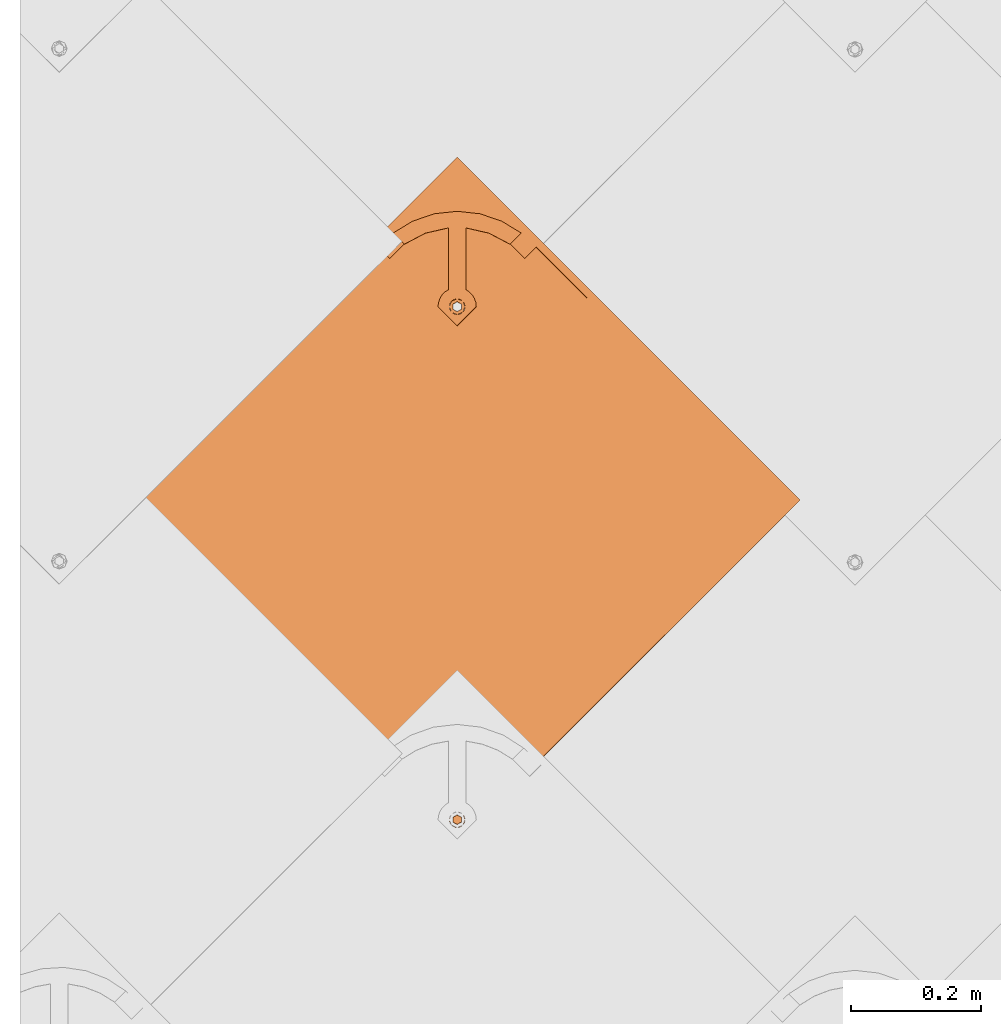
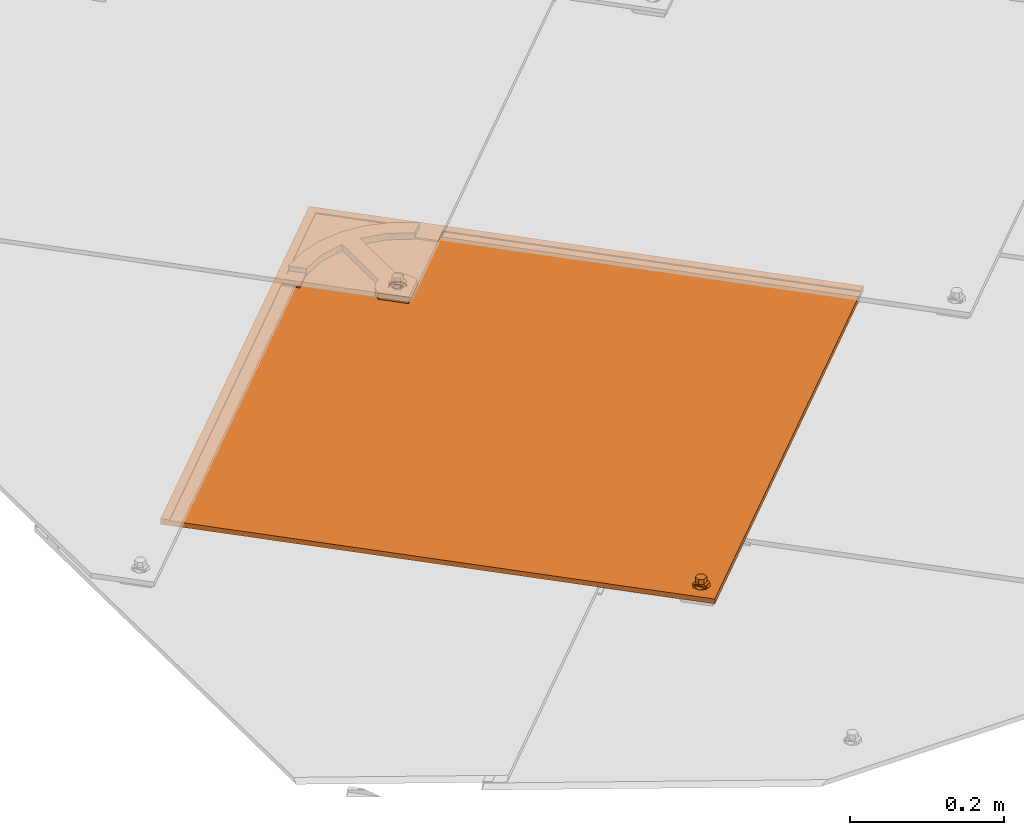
# One storey, part 75 of 151: 1 proxy.
"""IFC2X3 building model written with IfcOpenShell, lengths in millimetres."""

from ifc_helpers import new_model, entity, si_unit, converted_unit, derived_unit, direction, frame, origin, place, context, subcontext, project, spatial, faceted_brep, source, transform, mapped, material, material_list, type_object, type_shapes, element, save


model = new_model("IFC2X3")

# Units and contexts
model_context = context("Model", 3, precision=0.01, world=origin(), true_north=direction((6.12303176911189e-17, 1.0)))
body_context = subcontext(model_context, "Body", "Model", "MODEL_VIEW")
ifc_project = project(units=[si_unit("LENGTHUNIT", "METRE", prefix="MILLI"), si_unit("AREAUNIT", "SQUARE_METRE"), si_unit("VOLUMEUNIT", "CUBIC_METRE"), converted_unit("PLANEANGLEUNIT", "DEGREE", entity("IfcRatioMeasure", 0.0174532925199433), si_unit("PLANEANGLEUNIT", "RADIAN"), dimensions=[0, 0, 0, 0, 0, 0, 0]), si_unit("MASSUNIT", "GRAM", prefix="KILO"), derived_unit("MASSDENSITYUNIT", [(si_unit("MASSUNIT", "GRAM", prefix="KILO"), 1), (si_unit("LENGTHUNIT", "METRE"), -3)]), si_unit("TIMEUNIT", "SECOND"), si_unit("FREQUENCYUNIT", "HERTZ"), si_unit("THERMODYNAMICTEMPERATUREUNIT", "DEGREE_CELSIUS"), derived_unit("THERMALTRANSMITTANCEUNIT", [(si_unit("MASSUNIT", "GRAM", prefix="KILO"), 1), (si_unit("THERMODYNAMICTEMPERATUREUNIT", "KELVIN"), -1), (si_unit("TIMEUNIT", "SECOND"), -3)]), derived_unit("VOLUMETRICFLOWRATEUNIT", [(si_unit("LENGTHUNIT", "METRE"), 3), (si_unit("TIMEUNIT", "SECOND"), -1)]), si_unit("ELECTRICCURRENTUNIT", "AMPERE"), si_unit("ELECTRICVOLTAGEUNIT", "VOLT"), si_unit("POWERUNIT", "WATT"), si_unit("FORCEUNIT", "NEWTON", prefix="KILO"), si_unit("ILLUMINANCEUNIT", "LUX"), si_unit("LUMINOUSFLUXUNIT", "LUMEN"), si_unit("LUMINOUSINTENSITYUNIT", "CANDELA"), derived_unit("USERDEFINED", [(si_unit("MASSUNIT", "GRAM", prefix="KILO"), -1), (si_unit("LENGTHUNIT", "METRE"), -2), (si_unit("TIMEUNIT", "SECOND"), 3), (si_unit("LUMINOUSFLUXUNIT", "LUMEN"), 1)]), derived_unit("LINEARVELOCITYUNIT", [(si_unit("LENGTHUNIT", "METRE"), 1), (si_unit("TIMEUNIT", "SECOND"), -1)]), si_unit("PRESSUREUNIT", "PASCAL"), derived_unit("USERDEFINED", [(si_unit("LENGTHUNIT", "METRE"), -2), (si_unit("MASSUNIT", "GRAM", prefix="KILO"), 1), (si_unit("TIMEUNIT", "SECOND"), -2)])], contexts=[model_context])

# Site, building, storey
site_placement = place(None, origin())
site = spatial("IfcSite", under=ifc_project, at=site_placement, Name="Default", CompositionType="ELEMENT")
building_placement = place(site_placement, origin())
building = spatial("IfcBuilding", under=site, at=building_placement, CompositionType="ELEMENT")
storey_placement = place(building_placement, origin())
storey = spatial("IfcBuildingStorey", under=building, at=storey_placement, Name="Level 1", CompositionType="ELEMENT", Elevation=0.0)

# Proxy
ifc_material_1 = material(Name="Rubber - Sunstyle - Black")
ifc_material_2 = material(Name="Glass - Sunstyle - Tainted Black")
ifc_material_list_1 = material_list([ifc_material_1, ifc_material_2])
ifc_material_list_2 = material_list([ifc_material_1, ifc_material_2])
building_element_proxy_type = type_object("IfcBuildingElementProxyType", Name="Non PV Shingle - Black", PredefinedType="NOTDEFINED", material=ifc_material_list_2)
shared_shape = source(origin(), body_context, "Body", "Brep", [
    faceted_brep([(0.0, -485.159313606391, 4.00636906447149), (-5.77420283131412, -488.492583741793, 4.062193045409), (-5.77420283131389, -488.124274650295, 26.0540623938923), (0.0, -484.791004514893, 25.9982384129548), (-5.77420283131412, -495.159124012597, 4.17384100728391), (-5.7742028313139, -494.790814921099, 26.1657103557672), (0.0, -498.492394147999, 4.2296649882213), (0.0, -498.1240850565, 26.2215343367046), (5.77420283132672, -495.159124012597, 4.17384100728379), (5.77420283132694, -494.790814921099, 26.1657103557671), (5.77420283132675, -488.492583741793, 4.06219304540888), (5.77420283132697, -488.124274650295, 26.0540623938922), (-8.60370416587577, -500.060042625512, 26.2539568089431), (0.0, -503.623313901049, 26.3136327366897), (-12.1674751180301, -491.457544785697, 26.1098863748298), (-8.60370416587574, -482.855046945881, 25.9658159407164), (0.0, -479.291775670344, 25.9061400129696), (8.60370416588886, -482.855046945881, 25.9658159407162), (12.1674751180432, -491.457544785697, 26.1098863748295), (8.60370416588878, -500.060042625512, 26.2539568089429), (-11.3242446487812, -489.162467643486, 28.4227283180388), (-9.75647455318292, -491.386529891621, 30.3502110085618), (0.0, -484.073454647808, 30.9829114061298), (0.0, -482.832957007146, 30.4025647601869), (0.0, -480.675406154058, 29.3931896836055), (0.0, -503.067269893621, 27.5886907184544), (0.0, -502.123693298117, 29.7523951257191), (0.0, -498.67431759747, 31.227439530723), (0.0, -479.804811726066, 27.19910242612), (-6.32324569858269, -495.024101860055, 31.1663074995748), (-6.32324569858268, -487.723670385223, 31.0440434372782), (11.3242446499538, -493.673887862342, 28.4982833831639), (9.84888015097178, -492.460936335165, 30.2713428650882), (6.32324569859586, -487.723670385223, 31.0440434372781), (6.32324569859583, -495.024101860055, 31.1663074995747), (-6.32324569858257, -494.890073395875, 39.1691956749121), (0.0, -498.54028913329, 39.2303277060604), (0.0, -491.239857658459, 39.1080636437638), (-6.32324569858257, -487.589641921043, 39.0469316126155), (6.32324569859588, -494.890073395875, 39.169195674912), (6.32324569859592, -487.589641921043, 39.0469316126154), (0.0, -483.939426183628, 38.9857995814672), (0.0, -491.825853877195, 4.11801702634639)], [[[0, 1, 2, 3]], [[1, 4, 5, 2]], [[4, 6, 7, 5]], [[6, 8, 9, 7]], [[8, 10, 11, 9]], [[10, 0, 3, 11]], [[12, 7, 13]], [[7, 12, 5]], [[14, 5, 12]], [[5, 14, 2]], [[15, 2, 14]], [[3, 2, 15]], [[15, 16, 3]], [[16, 17, 3]], [[11, 3, 17]], [[11, 17, 18]], [[9, 11, 18]], [[18, 19, 9]], [[7, 9, 19]], [[19, 13, 7]], [[20, 14, 12]], [[21, 22, 23, 24]], [[24, 20, 21]], [[25, 20, 12]], [[26, 27, 21]], [[15, 14, 20]], [[12, 13, 25]], [[20, 28, 15]], [[28, 20, 24]], [[21, 27, 29]], [[21, 29, 30]], [[26, 21, 20]], [[20, 25, 26]], [[15, 28, 16]], [[21, 30, 22]], [[31, 18, 17]], [[28, 31, 17]], [[32, 27, 26]], [[26, 31, 32]], [[26, 25, 31]], [[25, 19, 31]], [[17, 16, 28]], [[31, 19, 18]], [[24, 31, 28]], [[33, 34, 32]], [[23, 22, 33]], [[24, 32, 31]], [[27, 32, 34]], [[32, 23, 33]], [[19, 25, 13]], [[32, 24, 23]], [[35, 36, 37]], [[37, 38, 35]], [[36, 39, 37]], [[40, 37, 39]], [[37, 40, 41]], [[37, 41, 38]], [[42, 6, 4]], [[4, 1, 42]], [[1, 0, 42]], [[42, 8, 6]], [[0, 10, 42]], [[8, 42, 10]], [[22, 30, 38, 41]], [[30, 29, 35, 38]], [[29, 27, 36, 35]], [[27, 34, 39, 36]], [[34, 33, 40, 39]], [[33, 22, 41, 40]]]),
    faceted_brep([(0.0, 284.789208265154, 20.3195200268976), (0.0, 289.288576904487, 20.2441667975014), (-8.60370416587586, 288.352479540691, 20.259844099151), (8.60370416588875, 288.352479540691, 20.2598440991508), (6.64022859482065, 293.121777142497, 20.1799702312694), (12.1674751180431, 296.954977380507, 20.1157736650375), (6.64022859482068, 300.788177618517, 20.0515770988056), (8.60370416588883, 305.557475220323, 19.9717032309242), (0.0, 304.621377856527, 19.9873805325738), (0.0, 309.12074649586, 19.9120273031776), (-8.60370416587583, 305.557475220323, 19.9717032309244), (-6.64022859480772, 300.788177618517, 20.0515770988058), (-12.1674751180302, 296.954977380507, 20.1157736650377), (-6.64022859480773, 293.121777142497, 20.1799702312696), (-6.6402282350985, 300.520254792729, 4.05382046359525), (0.0, 304.35345482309, 3.9896239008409), (-6.64022823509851, 292.853854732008, 4.18221358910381), (0.0, 289.020654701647, 4.24641015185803), (6.64022823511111, 292.853854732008, 4.18221358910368), (6.64022823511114, 300.520254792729, 4.05382046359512), (-8.60370416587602, 288.084556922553, 4.26208746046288), (0.0, 284.521285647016, 4.32176338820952), (-12.1674751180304, 296.687054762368, 4.11801702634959), (-8.603704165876, 305.289552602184, 3.97394659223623), (0.0, 308.852823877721, 3.91427066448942), (8.60370416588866, 305.289552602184, 3.97394659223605), (12.167475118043, 296.687054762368, 4.11801702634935), (8.60370416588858, 288.084556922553, 4.26208746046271)], [[[0, 1, 2]], [[1, 0, 3]], [[3, 4, 1]], [[4, 3, 5]], [[6, 4, 5]], [[5, 7, 6]], [[7, 8, 6]], [[8, 7, 9]], [[8, 9, 10]], [[10, 11, 8]], [[12, 11, 10]], [[2, 13, 12]], [[12, 13, 11]], [[13, 2, 1]], [[8, 11, 14, 15]], [[11, 13, 16, 14]], [[13, 1, 17, 16]], [[1, 4, 18, 17]], [[4, 6, 19, 18]], [[6, 8, 15, 19]], [[20, 17, 21]], [[17, 20, 16]], [[22, 16, 20]], [[14, 16, 22]], [[23, 14, 22]], [[15, 14, 23]], [[23, 24, 15]], [[24, 25, 15]], [[19, 15, 25]], [[19, 25, 26]], [[26, 18, 19]], [[26, 27, 18]], [[17, 18, 27]], [[27, 21, 17]], [[24, 23, 10, 9]], [[10, 23, 22, 12]], [[20, 21, 0, 2]], [[20, 2, 12, 22]], [[21, 27, 3, 0]], [[3, 27, 26, 5]], [[25, 24, 9, 7]], [[25, 7, 5, 26]]]),
    faceted_brep([(518.347125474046, -8.50591218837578, 16.4460771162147), (526.831811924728, -0.0212257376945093, 16.3039797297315), (526.831811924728, 0.00389200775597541, 17.8037694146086), (518.347125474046, -8.48079444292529, 17.9458668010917), (0.000322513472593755, 509.695546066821, 7.76749207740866), (-518.346480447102, -8.50591218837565, 16.4460771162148), (-526.831166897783, -0.021225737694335, 16.3039797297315), (0.000322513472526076, 526.662539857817, 7.48333714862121), (0.000322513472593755, 526.687657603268, 8.98312683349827), (-526.831166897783, 0.00389200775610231, 17.8037694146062), (-518.346480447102, -8.48079444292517, 17.9458668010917), (0.000322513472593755, 509.720663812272, 9.26728176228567)], [[[0, 1, 2, 3]], [[1, 0, 4, 5, 6, 7]], [[2, 1, 7, 8]], [[3, 2, 8, 9, 10, 11]], [[0, 3, 11, 4]], [[5, 10, 9, 6]], [[8, 7, 6, 9]], [[4, 11, 10, 5]]]),
    faceted_brep([(0.000322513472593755, 526.662539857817, 7.48333714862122), (-3.10582854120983, 308.054627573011, 11.1444757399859), (0.0, 308.46346032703, 11.1376288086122), (-6.0, 306.855990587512, 11.1645499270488), (3.10582854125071, 308.054627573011, 11.1444757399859), (6.0, 306.855990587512, 11.1645499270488), (8.4852813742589, 304.949234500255, 11.1964833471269), (10.3923048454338, 302.464301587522, 11.2380997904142), (-8.48528137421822, 304.949234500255, 11.1964833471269), (-10.3923048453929, 302.464301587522, 11.2380997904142), (-11.5911099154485, 299.570535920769, 11.2865631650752), (-526.831166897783, -0.0212257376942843, 16.3039797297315), (11.5911099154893, 299.570535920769, 11.2865631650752), (526.831811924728, -0.021225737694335, 16.3039797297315), (-12.0, 296.465142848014, 11.3385707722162), (-11.5911099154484, 293.359749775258, 11.3905783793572), (-10.392304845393, 290.465984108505, 11.4390417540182), (-8.48528137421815, 287.981051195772, 11.4806581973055), (-6.0, 286.074295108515, 11.5125916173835), (-3.10582854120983, 284.875658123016, 11.5326658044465), (-2.07055236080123, -483.623303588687, 24.4031112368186), (-4.0, -484.422394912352, 24.4164940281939), (-5.65685424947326, -485.693565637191, 24.4377829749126), (-6.92820323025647, -487.350187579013, 24.4655272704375), (-7.72740661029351, -489.279364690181, 24.4978361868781), (-8.0, -491.349626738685, 24.5325079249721), (-7.72740661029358, -493.419888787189, 24.5671796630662), (0.000322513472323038, -526.704991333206, 25.1246223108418), (-6.92820323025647, -495.349065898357, 24.5994885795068), (-5.65685424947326, -497.005687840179, 24.6272328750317), (-4.0, -498.276858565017, 24.6485218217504), (-2.0705523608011, -499.075949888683, 24.6619046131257), (0.0, -499.348505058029, 24.6664692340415), (2.07055236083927, -499.075949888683, 24.6619046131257), (4.0, -498.276858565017, 24.6485218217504), (5.65685424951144, -497.005687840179, 24.6272328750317), (6.92820323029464, -495.349065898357, 24.5994885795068), (7.72740661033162, -493.419888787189, 24.5671796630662), (12.0, 296.465142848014, 11.3385707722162), (11.5911099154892, 293.359749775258, 11.3905783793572), (10.3923048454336, 290.465984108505, 11.4390417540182), (8.4852813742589, 287.981051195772, 11.4806581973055), (6.0, 286.074295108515, 11.5125916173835), (3.10582854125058, 284.875658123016, 11.5326658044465), (2.07055236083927, -483.623303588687, 24.4031112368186), (4.0, -484.422394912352, 24.4164940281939), (5.65685424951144, -485.69356563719, 24.4377829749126), (8.0, -491.349626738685, 24.5325079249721), (7.72740661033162, -489.279364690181, 24.4978361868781), (6.92820323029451, -487.350187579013, 24.4655272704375), (0.0, 284.466825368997, 11.5395127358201), (0.0, -483.350748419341, 24.3985466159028), (-526.831166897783, -0.146814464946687, 8.80503130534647), (-6.92820323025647, -487.475776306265, 16.9665788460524), (-7.72740661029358, -489.404953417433, 16.9988877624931), (-5.65685424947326, -485.819154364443, 16.9388345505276), (-8.0, -491.475215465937, 17.0335595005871), (-7.72740661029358, -493.545477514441, 17.0682312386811), (0.000322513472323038, -526.830580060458, 17.6256738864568), (-4.0, -484.547983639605, 16.9175456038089), (-2.07055236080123, -483.748892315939, 16.9041628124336), (-3.10582854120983, 284.750069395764, 4.03371738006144), (-6.0, 285.948706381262, 4.01364319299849), (-8.48528137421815, 287.85546246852, 3.98170977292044), (-10.392304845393, 290.340395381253, 3.94009332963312), (-11.5911099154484, 293.234161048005, 3.89162995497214), (-12.0, 296.339554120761, 3.83962234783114), (-11.5911099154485, 299.444947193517, 3.78761474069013), (0.000322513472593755, 526.536951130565, -0.0156112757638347), (-10.3923048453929, 302.338712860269, 3.73915136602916), (-8.48528137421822, 304.823645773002, 3.69753492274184), (-6.0, 306.73040186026, 3.66560150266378), (-3.10582854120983, 307.929038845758, 3.64552731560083), (0.0, 308.337871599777, 3.63868038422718), (3.10582854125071, 307.929038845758, 3.64552731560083), (6.0, 306.73040186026, 3.66560150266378), (8.4852813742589, 304.823645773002, 3.69753492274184), (10.3923048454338, 302.338712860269, 3.73915136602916), (11.5911099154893, 299.444947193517, 3.78761474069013), (526.831811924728, -0.146814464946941, 8.80503130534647), (7.72740661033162, -493.545477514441, 17.0682312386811), (8.0, -491.475215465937, 17.0335595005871), (7.72740661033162, -489.404953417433, 16.9988877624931), (6.92820323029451, -487.475776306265, 16.9665788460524), (5.65685424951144, -485.819154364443, 16.9388345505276), (4.0, -484.547983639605, 16.9175456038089), (2.07055236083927, -483.748892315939, 16.9041628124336), (3.10582854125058, 284.750069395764, 4.03371738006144), (6.0, 285.948706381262, 4.01364319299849), (12.0, 296.339554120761, 3.83962234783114), (11.5911099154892, 293.234161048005, 3.89162995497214), (10.3923048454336, 290.340395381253, 3.94009332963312), (8.4852813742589, 287.85546246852, 3.98170977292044), (0.0, 284.341236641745, 4.04056431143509), (0.0, -483.476337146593, 16.8995981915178), (-6.92820323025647, -495.474654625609, 17.1005401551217), (-5.65685424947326, -497.131276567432, 17.1282844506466), (-4.0, -498.40244729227, 17.1495733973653), (-2.0705523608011, -499.201538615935, 17.1629561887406), (0.0, -499.474093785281, 17.1675208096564), (2.07055236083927, -499.201538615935, 17.1629561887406), (4.0, -498.40244729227, 17.1495733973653), (5.65685424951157, -497.131276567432, 17.1282844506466), (6.92820323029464, -495.474654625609, 17.1005401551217)], [[[0, 1, 2]], [[1, 0, 3]], [[0, 2, 4]], [[4, 5, 0]], [[5, 6, 0]], [[0, 6, 7]], [[8, 3, 0]], [[9, 8, 0]], [[9, 0, 10]], [[10, 0, 11]], [[12, 0, 7]], [[12, 13, 0]], [[11, 14, 10]], [[14, 11, 15]], [[16, 15, 11]], [[16, 11, 17]], [[18, 17, 11]], [[11, 19, 18]], [[19, 11, 20]], [[21, 20, 11]], [[11, 22, 21]], [[22, 11, 23]], [[23, 11, 24]], [[25, 24, 11]], [[25, 11, 26]], [[26, 11, 27]], [[27, 28, 26]], [[29, 28, 27]], [[30, 29, 27]], [[31, 30, 27]], [[27, 32, 31]], [[32, 27, 33]], [[34, 33, 27]], [[34, 27, 35]], [[36, 35, 27]], [[37, 36, 27]], [[37, 27, 13]], [[12, 38, 13]], [[39, 13, 38]], [[13, 39, 40]], [[13, 40, 41]], [[41, 42, 13]], [[42, 43, 13]], [[13, 43, 44]], [[45, 13, 44]], [[46, 13, 45]], [[47, 37, 13]], [[48, 47, 13]], [[49, 48, 13]], [[46, 49, 13]], [[20, 50, 19]], [[51, 50, 20]], [[44, 50, 51]], [[43, 50, 44]], [[52, 53, 54]], [[53, 52, 55]], [[52, 54, 56]], [[56, 57, 52]], [[52, 57, 58]], [[59, 55, 52]], [[60, 59, 52]], [[60, 52, 61]], [[61, 52, 62]], [[63, 62, 52]], [[64, 63, 52]], [[65, 64, 52]], [[66, 65, 52]], [[66, 52, 67]], [[52, 68, 67]], [[69, 67, 68]], [[70, 69, 68]], [[68, 71, 70]], [[71, 68, 72]], [[72, 68, 73]], [[74, 73, 68]], [[74, 68, 75]], [[76, 75, 68]], [[68, 77, 76]], [[77, 68, 78]], [[68, 79, 78]], [[58, 80, 79]], [[81, 79, 80]], [[81, 82, 79]], [[82, 83, 79]], [[84, 79, 83]], [[79, 84, 85]], [[85, 86, 79]], [[87, 79, 86]], [[87, 88, 79]], [[89, 78, 79]], [[79, 90, 89]], [[90, 79, 91]], [[92, 91, 79]], [[92, 79, 88]], [[93, 60, 61]], [[93, 86, 94]], [[94, 60, 93]], [[87, 86, 93]], [[58, 57, 95]], [[96, 58, 95]], [[96, 97, 58]], [[97, 98, 58]], [[99, 58, 98]], [[58, 99, 100]], [[58, 100, 101]], [[101, 102, 58]], [[102, 103, 58]], [[103, 80, 58]], [[11, 0, 68, 52]], [[27, 11, 52, 58]], [[13, 27, 58, 79]], [[0, 13, 79, 68]], [[25, 56, 54, 24]], [[24, 54, 53, 23]], [[21, 22, 55, 59]], [[55, 22, 23, 53]], [[20, 21, 59, 60]], [[20, 60, 94, 51]], [[51, 94, 86, 44]], [[44, 86, 85, 45]], [[49, 46, 84, 83]], [[84, 46, 45, 85]], [[48, 49, 83, 82]], [[48, 82, 81, 47]], [[47, 81, 80, 37]], [[37, 80, 103, 36]], [[34, 35, 102, 101]], [[102, 35, 36, 103]], [[33, 34, 101, 100]], [[33, 100, 99, 32]], [[32, 99, 98, 31]], [[31, 98, 97, 30]], [[28, 29, 96, 95]], [[96, 29, 30, 97]], [[26, 28, 95, 57]], [[26, 57, 56, 25]], [[14, 66, 67, 10]], [[10, 67, 69, 9]], [[3, 8, 70, 71]], [[70, 8, 9, 69]], [[1, 3, 71, 72]], [[1, 72, 73, 2]], [[2, 73, 74, 4]], [[4, 74, 75, 5]], [[7, 6, 76, 77]], [[76, 6, 5, 75]], [[12, 7, 77, 78]], [[12, 78, 89, 38]], [[38, 89, 90, 39]], [[39, 90, 91, 40]], [[42, 41, 92, 88]], [[40, 91, 92, 41]], [[87, 43, 42, 88]], [[43, 87, 93, 50]], [[50, 93, 61, 19]], [[19, 61, 62, 18]], [[16, 17, 63, 64]], [[63, 17, 18, 62]], [[15, 16, 64, 65]], [[15, 65, 66, 14]]]),
    faceted_brep([(-103.640919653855, 371.082989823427, 12.5892580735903), (-81.5635806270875, 393.15723338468, 12.2195694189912), (-98.1147183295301, 409.705441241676, 11.9424281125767), (-106.2656930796, 403.014562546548, 12.0544836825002), (-113.962762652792, 395.806279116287, 12.1752044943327), (-121.16572423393, 388.605337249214, 12.295802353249), (121.446435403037, 388.886009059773, 12.2911017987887), (110.715435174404, 399.614000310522, 12.1114346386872), (104.744439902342, 405.287275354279, 12.0164213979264), (98.4920378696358, 410.648923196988, 11.9266271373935), (98.074476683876, 410.231479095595, 11.933618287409), (98.234751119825, 410.108922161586, 11.9356708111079), (98.3948723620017, 409.986165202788, 11.9377266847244), (81.6917048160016, 393.285339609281, 12.2174239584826), (103.769043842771, 371.211096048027, 12.5871126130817), (-23.2046504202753, 315.000563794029, 21.029550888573), (-8.48528137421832, 305.451589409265, 21.1894724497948), (-18.7041061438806, 319.633569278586, 20.951959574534), (-10.392304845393, 302.966656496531, 21.2310888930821), (-26.5842195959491, 309.496413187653, 21.1217317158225), (-11.5911099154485, 300.072890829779, 21.2795522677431), (-28.6795527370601, 303.387013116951, 21.2240489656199), (-12.0, 296.967497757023, 21.3315598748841), (-29.3894280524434, 296.967497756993, 21.3315598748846), (-11.5911099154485, 293.862104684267, 21.3835674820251), (-10.392304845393, 290.968339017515, 21.4320308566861), (-8.48528137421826, 288.483406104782, 21.4736472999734), (0.0, 267.58219039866, 21.8236906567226), (-6.0, 286.576650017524, 21.5055807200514), (-3.10582854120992, 285.378013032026, 21.5256549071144), (0.0, 284.969180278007, 21.532501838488), (3.10582854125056, 285.378013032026, 21.5256549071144), (6.0, 286.576650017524, 21.5055807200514), (8.48528137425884, 288.483406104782, 21.4736472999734), (29.389428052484, 296.967497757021, 21.3315598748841), (10.3923048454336, 290.968339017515, 21.4320308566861), (11.5911099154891, 293.862104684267, 21.3835674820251), (12.0, 296.967497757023, 21.3315598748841), (28.6795527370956, 303.387013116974, 21.2240489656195), (11.5911099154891, 300.072890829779, 21.2795522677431), (26.5842195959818, 309.49641318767, 21.1217317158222), (10.3923048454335, 302.966656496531, 21.2310888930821), (23.2046504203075, 315.000563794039, 21.0295508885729), (8.48528137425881, 305.451589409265, 21.1894724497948), (18.7041061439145, 319.633569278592, 20.9519595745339), (6.0, 307.358345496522, 21.1575390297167), (13.3000000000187, 323.171617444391, 20.8927060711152), (3.10582854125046, 308.55698248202, 21.1374648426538), (0.0, 308.965815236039, 21.1306179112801), (-13.2999999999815, 323.171617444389, 20.8927060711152), (-13.2999999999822, 418.050603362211, 19.3037191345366), (13.3000000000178, 418.050603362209, 19.3037191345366), (0.0, 443.522216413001, 18.8771329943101), (34.9852699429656, 439.689674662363, 18.9413185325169), (48.8881158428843, 409.917561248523, 19.4399273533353), (68.3106161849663, 428.373889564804, 19.1308297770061), (81.1868897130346, 392.906184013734, 19.7248255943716), (98.3948723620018, 410.11175393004, 19.4366751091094), (-34.9852699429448, 439.689674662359, 18.941318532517), (-48.8881158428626, 409.917561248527, 19.4399273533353), (-68.3106161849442, 428.373889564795, 19.1308297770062), (-81.1868897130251, 392.906184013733, 19.7248255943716), (-98.3948723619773, 410.111753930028, 19.4366751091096), (-6.0, 307.358345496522, 21.1575390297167), (-3.10582854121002, 308.55698248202, 21.1374648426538), (0.0, 267.414738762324, 11.8250927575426), (0.0, 284.80172864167, 11.533903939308), (3.10582854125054, 285.210561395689, 11.5270570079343), (-3.10582854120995, 285.210561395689, 11.5270570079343), (6.0, 286.409198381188, 11.5069828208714), (8.48528137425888, 288.315954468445, 11.4750494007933), (29.389428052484, 296.800046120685, 11.332961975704), (-6.0, 286.409198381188, 11.5069828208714), (-8.48528137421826, 288.315954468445, 11.4750494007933), (-29.3894280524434, 296.800046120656, 11.3329619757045), (-10.392304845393, 290.800887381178, 11.433432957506), (-11.5911099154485, 293.694653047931, 11.384969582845), (-12.0, 296.800046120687, 11.332961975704), (-28.6795527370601, 303.219561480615, 11.2254510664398), (-11.5911099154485, 299.905439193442, 11.280954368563), (-26.5842195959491, 309.328961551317, 11.1231338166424), (-10.392304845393, 302.799204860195, 11.232490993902), (-23.2046504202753, 314.833112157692, 11.030952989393), (-8.48528137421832, 305.284137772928, 11.1908745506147), (-18.7041061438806, 319.466117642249, 10.9533616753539), (-6.0, 307.190893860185, 11.1589411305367), (-13.2999999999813, 323.004165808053, 10.8941081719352), (-3.10582854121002, 308.389530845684, 11.1388669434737), (0.0, 308.798363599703, 11.1320200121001), (13.3000000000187, 323.004165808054, 10.8941081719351), (13.3000000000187, 417.883151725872, 9.30512123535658), (-13.2999999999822, 417.883151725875, 9.30512123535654), (-0.199443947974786, 443.35464169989, 8.87853715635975), (-35.1150635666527, 439.493384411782, 8.94320360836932), (-48.8881158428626, 409.75010961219, 9.44132945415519), (-68.3708539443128, 428.178324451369, 9.13270270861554), (-81.5627248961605, 393.11622608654, 9.71990561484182), (-81.1868897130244, 392.738732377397, 9.72622769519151), (-98.1143736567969, 409.663842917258, 9.44277420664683), (-106.2656930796, 402.972699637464, 9.5548342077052), (-103.640919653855, 371.041126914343, 10.0896085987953), (-113.962762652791, 395.764416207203, 9.67555501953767), (-121.16572423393, 388.56347434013, 9.79615287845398), (-98.3948723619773, 409.944302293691, 9.43807720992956), (34.7256001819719, 439.579582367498, 8.94176000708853), (48.8881158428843, 409.750109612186, 9.44132945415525), (68.0092206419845, 428.346649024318, 9.12988369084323), (81.6917048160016, 393.243476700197, 9.71777448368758), (98.0744766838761, 410.189616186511, 9.43396881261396), (104.744439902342, 405.245412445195, 9.51677192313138), (98.4920378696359, 410.607060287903, 9.42697766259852), (110.715435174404, 399.572137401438, 9.61178516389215), (103.769043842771, 371.169233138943, 10.0874631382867), (121.446435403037, 388.844146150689, 9.7914523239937), (81.1868897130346, 392.738732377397, 9.7262276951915), (3.10582854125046, 308.389530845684, 11.1388669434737), (6.0, 307.190893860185, 11.1589411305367), (18.7041061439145, 319.466117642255, 10.9533616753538), (8.48528137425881, 305.284137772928, 11.1908745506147), (23.2046504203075, 314.833112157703, 11.0309529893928), (10.3923048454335, 302.799204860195, 11.232490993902), (26.5842195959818, 309.328961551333, 11.1231338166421), (11.5911099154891, 299.905439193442, 11.280954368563), (28.6795527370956, 303.219561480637, 11.2254510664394), (12.0, 296.800046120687, 11.332961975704), (10.3923048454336, 290.800887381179, 11.433432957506), (11.5911099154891, 293.694653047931, 11.384969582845)], [[[0, 1, 2, 3, 4, 5]], [[6, 7, 8, 9, 10, 11, 12, 13, 14]], [[15, 16, 17]], [[18, 16, 15]], [[19, 18, 15]], [[20, 18, 19]], [[19, 21, 20]], [[21, 22, 20]], [[22, 21, 23]], [[24, 22, 23]], [[25, 24, 23]], [[25, 23, 26]], [[23, 27, 26]], [[28, 26, 27]], [[28, 27, 29]], [[27, 30, 29]], [[30, 27, 31]], [[31, 27, 32]], [[33, 32, 27]], [[33, 27, 34]], [[34, 35, 33]], [[36, 35, 34]], [[37, 36, 34]], [[34, 38, 37]], [[39, 37, 38]], [[38, 40, 39]], [[40, 41, 39]], [[41, 40, 42]], [[43, 41, 42]], [[42, 44, 43]], [[45, 43, 44]], [[44, 46, 45]], [[45, 46, 47]], [[47, 46, 48]], [[46, 49, 48]], [[46, 50, 49]], [[46, 51, 50]], [[52, 50, 51]], [[51, 53, 52]], [[51, 54, 53]], [[53, 54, 55]], [[54, 56, 55]], [[56, 57, 55]], [[58, 50, 52]], [[50, 58, 59]], [[60, 59, 58]], [[60, 61, 59]], [[61, 60, 62]], [[63, 49, 17]], [[63, 64, 49]], [[49, 64, 48]], [[63, 17, 16]], [[65, 66, 67]], [[66, 65, 68]], [[65, 67, 69]], [[69, 70, 65]], [[65, 70, 71]], [[72, 68, 65]], [[72, 65, 73]], [[73, 65, 74]], [[74, 75, 73]], [[75, 74, 76]], [[76, 74, 77]], [[78, 77, 74]], [[79, 77, 78]], [[78, 80, 79]], [[79, 80, 81]], [[80, 82, 81]], [[83, 81, 82]], [[84, 83, 82]], [[84, 85, 83]], [[86, 85, 84]], [[86, 87, 85]], [[88, 87, 86]], [[89, 88, 86]], [[89, 86, 90]], [[91, 90, 86]], [[91, 92, 90]], [[92, 91, 93]], [[94, 93, 91]], [[93, 94, 95]], [[94, 96, 95]], [[94, 97, 96]], [[98, 95, 96]], [[99, 98, 96]], [[96, 100, 99]], [[99, 100, 101]], [[102, 101, 100]], [[95, 98, 103]], [[104, 90, 92]], [[90, 104, 105]], [[106, 105, 104]], [[107, 105, 106]], [[106, 108, 107]], [[108, 109, 107]], [[109, 108, 110]], [[111, 107, 109]], [[111, 112, 107]], [[113, 112, 111]], [[107, 114, 105]], [[115, 88, 89]], [[116, 115, 89]], [[116, 89, 117]], [[117, 118, 116]], [[119, 118, 117]], [[119, 120, 118]], [[119, 121, 120]], [[121, 122, 120]], [[122, 121, 123]], [[71, 124, 123]], [[124, 122, 123]], [[71, 70, 125]], [[125, 126, 71]], [[126, 124, 71]], [[49, 50, 91, 86]], [[17, 49, 86, 84]], [[15, 17, 84, 82]], [[82, 80, 19, 15]], [[21, 19, 80, 78]], [[23, 21, 78, 74]], [[27, 23, 74, 65]], [[0, 5, 102, 100]], [[34, 27, 65, 71]], [[6, 14, 112, 113]], [[38, 34, 71, 123]], [[40, 38, 123, 121]], [[121, 119, 42, 40]], [[44, 42, 119, 117]], [[46, 44, 117, 89]], [[51, 46, 89, 90]], [[11, 10, 57]], [[108, 106, 10]], [[10, 106, 55]], [[12, 11, 57]], [[57, 10, 55]], [[106, 53, 55]], [[106, 104, 53]], [[52, 104, 92]], [[92, 93, 58]], [[95, 60, 93]], [[52, 92, 58]], [[95, 62, 60]], [[60, 58, 93]], [[62, 95, 103]], [[104, 52, 53]], [[22, 77, 79, 20]], [[20, 79, 81, 18]], [[63, 16, 83, 85]], [[81, 83, 16, 18]], [[64, 63, 85, 87]], [[88, 48, 64, 87]], [[47, 115, 116, 45]], [[45, 116, 118, 43]], [[39, 41, 120, 122]], [[118, 120, 41, 43]], [[37, 39, 122, 124]], [[47, 48, 88, 115]], [[37, 124, 126, 36]], [[36, 126, 125, 35]], [[32, 33, 70, 69]], [[125, 70, 33, 35]], [[31, 32, 69, 67]], [[66, 30, 31, 67]], [[29, 68, 72, 28]], [[28, 72, 73, 26]], [[24, 25, 75, 76]], [[73, 75, 25, 26]], [[22, 24, 76, 77]], [[29, 30, 66, 68]], [[7, 6, 113, 111]], [[7, 111, 109, 8]], [[109, 110, 9, 8]], [[14, 13, 107, 112]], [[1, 0, 100, 96]], [[2, 98, 3]], [[3, 98, 99]], [[99, 101, 4, 3]], [[5, 4, 101, 102]], [[97, 94, 59, 61]], [[91, 50, 59, 94]], [[90, 105, 54, 51]], [[114, 56, 54, 105]], [[10, 9, 110, 108]], [[62, 2, 1]], [[2, 62, 103]], [[61, 62, 1, 97]], [[103, 98, 2]], [[96, 97, 1]], [[57, 56, 114, 107, 13, 12]]]),
])
type_shapes(building_element_proxy_type, [shared_shape])
proxy_placement = place(storey_placement, frame((-18375.6614881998, 15465.8027660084, 0.0)))
element("IfcBuildingElementProxy", 1, at=proxy_placement, inside=storey, type_object=building_element_proxy_type, material=ifc_material_list_1, Name="Roofing_Panels_SunStyle_Tile_Non-PV-Shingle:Non PV Shingle - Black", ObjectType="Roofing_Panels_SunStyle_Tile_Non-PV-Shingle:Non PV Shingle - Black", context=body_context, shape_type="MappedRepresentation", body=[
    mapped(shared_shape, transform((0.0, 0.0, 0.0), scale=1.0)),
])

save(model, "model.ifc")
